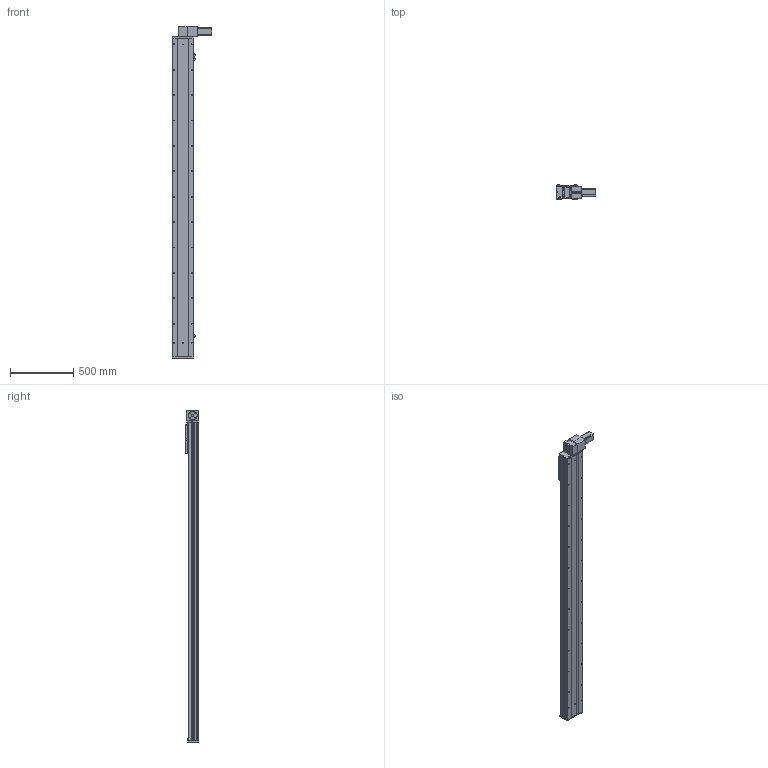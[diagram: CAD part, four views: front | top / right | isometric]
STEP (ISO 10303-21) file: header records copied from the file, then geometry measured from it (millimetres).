
FILE_DESCRIPTION (( 'STEP AP203' ), '1' );
FILE_NAME ('Y170CB-D105-S2200-BD-P400W.STEP', '2020-02-20T09:04:20', ( '微软用户' ), ( '微软中国' ), 'SwSTEP 2.0', 'SolidWorks 2017', '' );
FILE_SCHEMA (( 'CONFIG_CONTROL_DESIGN' ));
Length unit declared in the file: millimetre
Products named in the file (16): Y1埴倛裔; 70CB-耜裔啣-; 70B喘謫眊----; 70C--詩湍揤踡え-; 0B薊粣ん眊-400W--; 70CB--耜裔; Y170CB-D105-S2200-BD-P400W; 70C-雄赽釱-奻-; 0C--雄赽釱俋欶-170; B-源倛裔啣; 70CB-詩湍--; san松下电机400不带刹车----; Y100-135俋离換覜ん--; 70CB-掛极-; Y170CB-陔俋离換覜結え---; --70CB --喘謫眊楊擘啣-
Assembly tree (19 placements, depth 2):
  Y170CB-D105-S2200-BD-P400W
    B-源倛裔啣
    san松下电机400不带刹车----
    70CB-掛极-
    --70CB --喘謫眊楊擘啣-
    70CB-耜裔啣-  x2
    70C--詩湍揤踡え-  x2
    70CB--耜裔
    70C-雄赽釱-奻-
    0C--雄赽釱俋欶-170
    70CB-詩湍--
    Y100-135俋离換覜ん--  x3
    Y170CB-陔俋离換覜結え---
    Y1埴倛裔
    70B喘謫眊----
    0B薊粣ん眊-400W--
Bounding box: 313.5 x 107 x 2616 mm (x, y, z)
Volume: 11551690.2 mm3; surface area: 4036188.4 mm2
Topology: 19 solids, 19 shells, 968 faces, 2570 edges, 1704 vertices
Faces by surface type: cylinder 522, plane 422, cone 24
Entity records: 30471 total; most frequent: CARTESIAN_POINT 5686, DIRECTION 4959, ORIENTED_EDGE 4622, EDGE_CURVE 2311, AXIS2_PLACEMENT_3D 1841, VERTEX_POINT 1534, VECTOR 1277, LINE 1277
